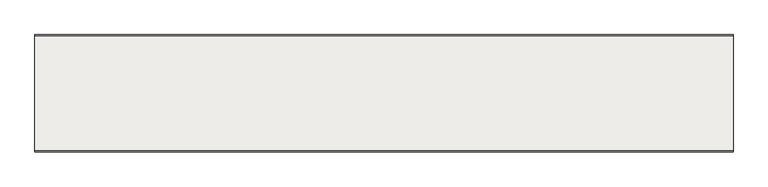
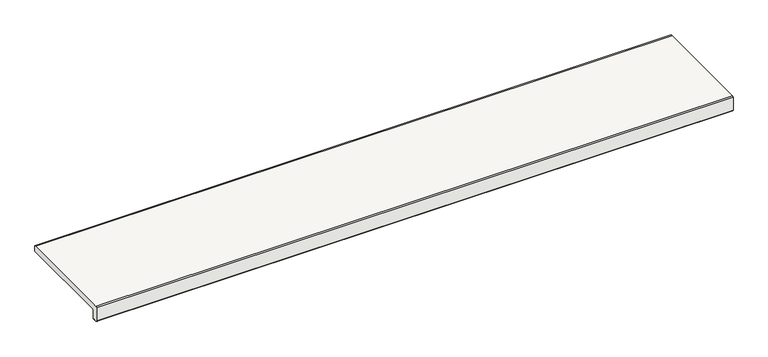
"""IFC4 building model written with IfcOpenShell, lengths in millimetres: slab geometry, ROSA GRES_L62 : Pieza L62_Tresor_Java_Anti-Slip."""

from ifc_helpers import new_model, si_unit, point, frame, frame_2d, origin, place, context, project, spatial, polyline, circle_curve, trimmed, segment, composite_curve, outline, extrude, source, transform, mapped, element, save


def slab_a51d032b(model_context):
    return source(origin(), model_context, "Body", "SweptSolid", [
        extrude(outline(composite_curve([segment(polyline([(12.1001991, -37.0), (9.4054777, -37.0)]), True, "CONTINUOUS"), segment(trimmed(circle_curve(frame_2d((7.4142134, -37.0)), 1.9912643), [point((9.4054777, -37.0))], [point((5.422949, -37.0))], True, "CARTESIAN"), True, "CONTINUOUS"), segment(polyline([(5.422949, -37.0), (2.5, -37.0)]), True, "CONTINUOUS"), segment(trimmed(circle_curve(frame_2d((2.5, -34.5)), 2.5), [point((2.5, -37.0))], [point((0.0, -34.5))], False, "CARTESIAN"), True, "CONTINUOUS"), segment(polyline([(0.0, -34.5), (0.0, -2.5), (2.5, 0.0), (247.5, 0.0), (250.0, -0.0899281), (250.0, -13.9413919), (16.6422322, -13.9413919)]), True, "CONTINUOUS"), segment(trimmed(circle_curve(frame_2d((16.6422322, -16.5836242)), 2.6422322), [point((16.6422322, -13.9413919))], [point((14.0, -16.5836242))], True, "CARTESIAN"), True, "CONTINUOUS"), segment(polyline([(14.0, -16.5836242), (14.0, -35.1001991)]), True, "CONTINUOUS"), segment(trimmed(circle_curve(frame_2d((12.1001991, -35.1001991)), 1.8998009), [point((14.0, -35.1001991))], [point((12.1001991, -37.0))], False, "CARTESIAN"), True, "CONTINUOUS")], self_intersect=False)), frame((0.0, 0.0, 0.0), z_axis=(1.0, 0.0, 0.0), x_axis=(0.0, 1.0, 0.0)), (0.0, 0.0, 1.0), 1488.9283704),
    ])


if __name__ == "__main__":
    model = new_model("IFC4")
    model_context = context("Model", 3, world=origin())
    ifc_project = project(units=[si_unit("LENGTHUNIT", "METRE", prefix="MILLI")], contexts=[model_context])
    site = spatial("IfcSite", under=ifc_project)
    building = spatial("IfcBuilding", under=site)
    placement = place(None, origin())
    slab_shape = slab_a51d032b(model_context)
    element("IfcSlab", 1, ObjectType="ROSA GRES_L62 : Pieza L62_Tresor_Java_Anti-Slip", at=placement, inside=building, context=model_context, shape_type="MappedRepresentation", body=[
        mapped(slab_shape, transform((0.0, 0.0, 0.0), x_axis=(1.0, 0.0, 0.0), y_axis=(0.0, 1.0, 0.0), z_axis=(0.0, 0.0, 1.0))),
    ])
    save(model, "model.ifc")
